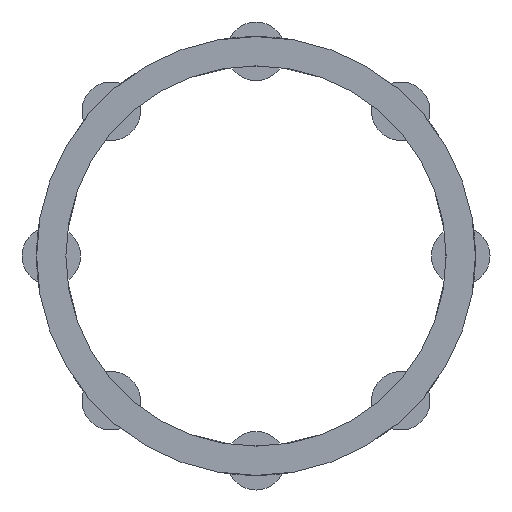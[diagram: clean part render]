
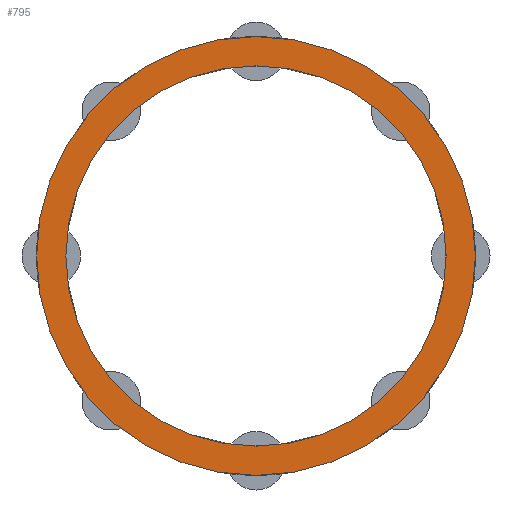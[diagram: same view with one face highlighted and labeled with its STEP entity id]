
A CAD part, left-side view. The second image highlights one B-rep face of the part: STEP entity #795.
In plain terms, the highlighted planar face has unit normal (-1, 0, 0).
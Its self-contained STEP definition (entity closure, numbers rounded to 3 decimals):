
#53=FACE_BOUND('',#229,.T.);
#189=FACE_OUTER_BOUND('',#228,.T.);
#228=EDGE_LOOP('',(#626));
#229=EDGE_LOOP('',(#627));
#320=CIRCLE('',#902,5.625);
#321=CIRCLE('',#903,4.875);
#390=VERTEX_POINT('',#1393);
#391=VERTEX_POINT('',#1395);
#492=EDGE_CURVE('',#390,#390,#320,.T.);
#493=EDGE_CURVE('',#391,#391,#321,.T.);
#626=ORIENTED_EDGE('',*,*,#492,.F.);
#627=ORIENTED_EDGE('',*,*,#493,.T.);
#718=PLANE('',#901);
#795=ADVANCED_FACE('',(#189,#53),#718,.T.);
#901=AXIS2_PLACEMENT_3D('',#1392,#1151,#1152);
#902=AXIS2_PLACEMENT_3D('',#1394,#1153,#1154);
#903=AXIS2_PLACEMENT_3D('',#1396,#1155,#1156);
#1151=DIRECTION('center_axis',(-1.,0.,0.));
#1152=DIRECTION('ref_axis',(0.,0.,1.));
#1153=DIRECTION('center_axis',(1.,0.,0.));
#1154=DIRECTION('ref_axis',(0.,0.,-1.));
#1155=DIRECTION('center_axis',(1.,0.,0.));
#1156=DIRECTION('ref_axis',(0.,0.,-1.));
#1392=CARTESIAN_POINT('Origin',(0.,5.625,0.));
#1393=CARTESIAN_POINT('',(0.,5.625,0.));
#1394=CARTESIAN_POINT('Origin',(0.,0.,
0.));
#1395=CARTESIAN_POINT('',(0.,4.875,0.));
#1396=CARTESIAN_POINT('Origin',(0.,0.,
0.));
